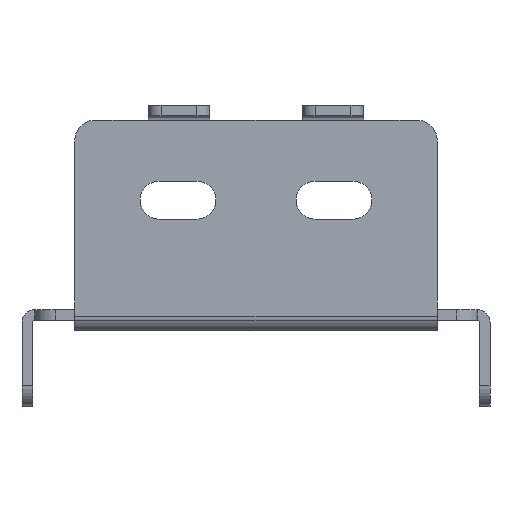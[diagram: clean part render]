
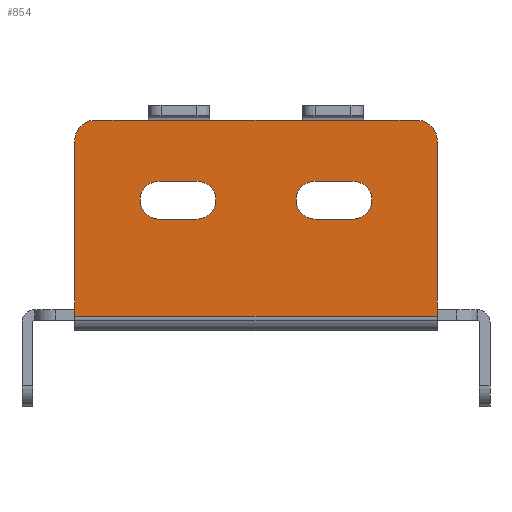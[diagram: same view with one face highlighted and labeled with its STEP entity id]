
A CAD part, front view. The second image highlights one B-rep face of the part: STEP entity #854.
In plain terms, the highlighted planar face has unit normal (0, -1, 0).
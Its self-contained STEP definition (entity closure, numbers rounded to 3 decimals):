
#26 = DIRECTION ( 'NONE',  ( 1., 0., 0. ) ) ;
#47 = AXIS2_PLACEMENT_3D ( 'NONE', #4131, #2044, #4484 ) ;
#91 = VERTEX_POINT ( 'NONE', #2545 ) ;
#125 = VECTOR ( 'NONE', #2453, 1000. ) ;
#145 = VERTEX_POINT ( 'NONE', #3322 ) ;
#158 = ORIENTED_EDGE ( 'NONE', *, *, #1124, .T. ) ;
#233 = CIRCLE ( 'NONE', #47, 4.5 ) ;
#298 = CARTESIAN_POINT ( 'NONE',  ( 23., -750., 28.5 ) ) ;
#327 = CARTESIAN_POINT ( 'NONE',  ( -38., -750., 47.5 ) ) ;
#352 = EDGE_CURVE ( 'NONE', #2851, #4167, #4058, .T. ) ;
#360 = LINE ( 'NONE', #1279, #472 ) ;
#363 = CARTESIAN_POINT ( 'NONE',  ( -23., -750., 28.5 ) ) ;
#365 = VERTEX_POINT ( 'NONE', #3160 ) ;
#414 = CARTESIAN_POINT ( 'NONE',  ( 43., -750., 47.5 ) ) ;
#415 = EDGE_CURVE ( 'NONE', #2531, #3771, #1164, .T. ) ;
#449 = CARTESIAN_POINT ( 'NONE',  ( -11., -750., 47.5 ) ) ;
#460 = DIRECTION ( 'NONE',  ( 0., -1., 0. ) ) ;
#472 = VECTOR ( 'NONE', #2655, 1000. ) ;
#490 = ORIENTED_EDGE ( 'NONE', *, *, #4356, .F. ) ;
#497 = EDGE_CURVE ( 'NONE', #4167, #2531, #727, .T. ) ;
#511 = LINE ( 'NONE', #2525, #2254 ) ;
#525 = VERTEX_POINT ( 'NONE', #449 ) ;
#533 = FACE_BOUND ( 'NONE', #922, .T. ) ;
#550 = CARTESIAN_POINT ( 'NONE',  ( 43., -750., 42.5 ) ) ;
#573 = ORIENTED_EDGE ( 'NONE', *, *, #497, .T. ) ;
#608 = CARTESIAN_POINT ( 'NONE',  ( 14., -750., 24. ) ) ;
#650 = DIRECTION ( 'NONE',  ( 0., 0., 1. ) ) ;
#663 = ORIENTED_EDGE ( 'NONE', *, *, #2762, .F. ) ;
#707 = DIRECTION ( 'NONE',  ( 0., 0., 1. ) ) ;
#727 = LINE ( 'NONE', #785, #4329 ) ;
#743 = VECTOR ( 'NONE', #3531, 1000. ) ;
#773 = ORIENTED_EDGE ( 'NONE', *, *, #4438, .F. ) ;
#784 = CARTESIAN_POINT ( 'NONE',  ( 43., -750., -2.5 ) ) ;
#785 = CARTESIAN_POINT ( 'NONE',  ( -43., -750., -2.5 ) ) ;
#794 = EDGE_CURVE ( 'NONE', #1062, #3771, #3526, .T. ) ;
#795 = ORIENTED_EDGE ( 'NONE', *, *, #2878, .F. ) ;
#797 = ORIENTED_EDGE ( 'NONE', *, *, #977, .T. ) ;
#854 = ADVANCED_FACE ( 'NONE', ( #533, #4126, #3205 ), #2499, .F. ) ;
#922 = EDGE_LOOP ( 'NONE', ( #1364, #3751, #2749, #663 ) ) ;
#932 = VECTOR ( 'NONE', #2493, 1000. ) ;
#972 = CARTESIAN_POINT ( 'NONE',  ( 43., -750., 47.5 ) ) ;
#977 = EDGE_CURVE ( 'NONE', #1062, #3425, #3586, .T. ) ;
#1018 = ORIENTED_EDGE ( 'NONE', *, *, #352, .T. ) ;
#1062 = VERTEX_POINT ( 'NONE', #550 ) ;
#1090 = CARTESIAN_POINT ( 'NONE',  ( 25.5, -750., 47.5 ) ) ;
#1091 = EDGE_LOOP ( 'NONE', ( #2113, #795, #773, #490 ) ) ;
#1124 = EDGE_CURVE ( 'NONE', #4306, #3963, #360, .T. ) ;
#1129 = CARTESIAN_POINT ( 'NONE',  ( 43., -750., 1. ) ) ;
#1164 = LINE ( 'NONE', #2806, #3833 ) ;
#1268 = CIRCLE ( 'NONE', #1357, 4.5 ) ;
#1279 = CARTESIAN_POINT ( 'NONE',  ( 43., -750., 47.5 ) ) ;
#1357 = AXIS2_PLACEMENT_3D ( 'NONE', #363, #2788, #707 ) ;
#1364 = ORIENTED_EDGE ( 'NONE', *, *, #2555, .F. ) ;
#1548 = CARTESIAN_POINT ( 'NONE',  ( 38., -750., 42.5 ) ) ;
#1586 = VECTOR ( 'NONE', #2366, 1000. ) ;
#1664 = DIRECTION ( 'NONE',  ( -1., 0., 0. ) ) ;
#1693 = LINE ( 'NONE', #3761, #1586 ) ;
#1696 = LINE ( 'NONE', #1899, #4156 ) ;
#1721 = EDGE_LOOP ( 'NONE', ( #2753, #2679, #2067, #1018, #573, #3926, #2704, #797, #4148, #158 ) ) ;
#1743 = CARTESIAN_POINT ( 'NONE',  ( -38., -750., 42.5 ) ) ;
#1775 = CARTESIAN_POINT ( 'NONE',  ( 43., -750., -2.5 ) ) ;
#1793 = AXIS2_PLACEMENT_3D ( 'NONE', #2543, #460, #2885 ) ;
#1828 = DIRECTION ( 'NONE',  ( 0., 1., 0. ) ) ;
#1897 = DIRECTION ( 'NONE',  ( 0., 0., 1. ) ) ;
#1899 = CARTESIAN_POINT ( 'NONE',  ( -23., -750., 33. ) ) ;
#1924 = CIRCLE ( 'NONE', #1793, 4.5 ) ;
#2044 = DIRECTION ( 'NONE',  ( 0., -1., 0. ) ) ;
#2066 = VERTEX_POINT ( 'NONE', #3174 ) ;
#2067 = ORIENTED_EDGE ( 'NONE', *, *, #3372, .T. ) ;
#2070 = CARTESIAN_POINT ( 'NONE',  ( -43., -750., 1. ) ) ;
#2083 = DIRECTION ( 'NONE',  ( 1., 0., 0. ) ) ;
#2084 = LINE ( 'NONE', #2991, #3826 ) ;
#2109 = DIRECTION ( 'NONE',  ( 0., 0., 1. ) ) ;
#2108 = CARTESIAN_POINT ( 'NONE',  ( 43., -750., 47.5 ) ) ;
#2113 = ORIENTED_EDGE ( 'NONE', *, *, #2734, .F. ) ;
#2186 = DIRECTION ( 'NONE',  ( 0., 0., -1. ) ) ;
#2207 = AXIS2_PLACEMENT_3D ( 'NONE', #1548, #3989, #1897 ) ;
#2254 = VECTOR ( 'NONE', #2866, 1000. ) ;
#2366 = DIRECTION ( 'NONE',  ( 1., 0., 0. ) ) ;
#2453 = DIRECTION ( 'NONE',  ( -1., 0., 0. ) ) ;
#2471 = EDGE_CURVE ( 'NONE', #91, #3106, #233, .T. ) ;
#2493 = DIRECTION ( 'NONE',  ( -1., 0., 0. ) ) ;
#2499 = PLANE ( 'NONE',  #3702 ) ;
#2525 = CARTESIAN_POINT ( 'NONE',  ( 14., -750., 33. ) ) ;
#2531 = VERTEX_POINT ( 'NONE', #2070 ) ;
#2543 = CARTESIAN_POINT ( 'NONE',  ( -14., -750., 28.5 ) ) ;
#2545 = CARTESIAN_POINT ( 'NONE',  ( 14., -750., 33. ) ) ;
#2555 = EDGE_CURVE ( 'NONE', #3106, #4375, #4436, .T. ) ;
#2601 = DIRECTION ( 'NONE',  ( -1., 0., 0. ) ) ;
#2617 = EDGE_CURVE ( 'NONE', #2653, #91, #511, .T. ) ;
#2653 = VERTEX_POINT ( 'NONE', #4419 ) ;
#2655 = DIRECTION ( 'NONE',  ( -1., 0., 0. ) ) ;
#2679 = ORIENTED_EDGE ( 'NONE', *, *, #4505, .T. ) ;
#2690 = CARTESIAN_POINT ( 'NONE',  ( -23., -750., 33. ) ) ;
#2704 = ORIENTED_EDGE ( 'NONE', *, *, #794, .F. ) ;
#2722 = EDGE_CURVE ( 'NONE', #3425, #4306, #2836, .T. ) ;
#2724 = DIRECTION ( 'NONE',  ( 0., -1., 0. ) ) ;
#2734 = EDGE_CURVE ( 'NONE', #4117, #2066, #1693, .T. ) ;
#2749 = ORIENTED_EDGE ( 'NONE', *, *, #2617, .F. ) ;
#2753 = ORIENTED_EDGE ( 'NONE', *, *, #2919, .T. ) ;
#2754 = CARTESIAN_POINT ( 'NONE',  ( -43., -750., 42.5 ) ) ;
#2762 = EDGE_CURVE ( 'NONE', #4375, #2653, #4262, .T. ) ;
#2788 = DIRECTION ( 'NONE',  ( 0., -1., 0. ) ) ;
#2806 = CARTESIAN_POINT ( 'NONE',  ( 43., -750., 1. ) ) ;
#2836 = LINE ( 'NONE', #972, #3454 ) ;
#2851 = VERTEX_POINT ( 'NONE', #327 ) ;
#2866 = DIRECTION ( 'NONE',  ( -1., 0., 0. ) ) ;
#2878 = EDGE_CURVE ( 'NONE', #3122, #4117, #1268, .T. ) ;
#2885 = DIRECTION ( 'NONE',  ( 0., 0., 1. ) ) ;
#2893 = LINE ( 'NONE', #2108, #125 ) ;
#2919 = EDGE_CURVE ( 'NONE', #3963, #525, #2893, .T. ) ;
#2979 = CARTESIAN_POINT ( 'NONE',  ( 11., -750., 47.5 ) ) ;
#2991 = CARTESIAN_POINT ( 'NONE',  ( -25.5, -750., 47.5 ) ) ;
#3075 = CARTESIAN_POINT ( 'NONE',  ( -23., -750., 24. ) ) ;
#3106 = VERTEX_POINT ( 'NONE', #608 ) ;
#3122 = VERTEX_POINT ( 'NONE', #2690 ) ;
#3160 = CARTESIAN_POINT ( 'NONE',  ( -14., -750., 33. ) ) ;
#3174 = CARTESIAN_POINT ( 'NONE',  ( -14., -750., 24. ) ) ;
#3205 = FACE_OUTER_BOUND ( 'NONE', #1721, .T. ) ;
#3322 = CARTESIAN_POINT ( 'NONE',  ( -25.5, -750., 47.5 ) ) ;
#3347 = DIRECTION ( 'NONE',  ( -1., 0., 0. ) ) ;
#3372 = EDGE_CURVE ( 'NONE', #145, #2851, #3818, .T. ) ;
#3425 = VERTEX_POINT ( 'NONE', #3589 ) ;
#3454 = VECTOR ( 'NONE', #1664, 1000. ) ;
#3526 = LINE ( 'NONE', #1775, #743 ) ;
#3531 = DIRECTION ( 'NONE',  ( 0., 0., -1. ) ) ;
#3586 = CIRCLE ( 'NONE', #2207, 5. ) ;
#3589 = CARTESIAN_POINT ( 'NONE',  ( 38., -750., 47.5 ) ) ;
#3627 = VECTOR ( 'NONE', #2083, 1000. ) ;
#3702 = AXIS2_PLACEMENT_3D ( 'NONE', #784, #1828, #4269 ) ;
#3751 = ORIENTED_EDGE ( 'NONE', *, *, #2471, .F. ) ;
#3761 = CARTESIAN_POINT ( 'NONE',  ( -23., -750., 24. ) ) ;
#3771 = VERTEX_POINT ( 'NONE', #1129 ) ;
#3789 = AXIS2_PLACEMENT_3D ( 'NONE', #298, #2724, #650 ) ;
#3818 = LINE ( 'NONE', #414, #932 ) ;
#3826 = VECTOR ( 'NONE', #3347, 1000. ) ;
#3833 = VECTOR ( 'NONE', #26, 1000. ) ;
#3861 = AXIS2_PLACEMENT_3D ( 'NONE', #1743, #4192, #2109 ) ;
#3926 = ORIENTED_EDGE ( 'NONE', *, *, #415, .T. ) ;
#3949 = CARTESIAN_POINT ( 'NONE',  ( 23., -750., 24. ) ) ;
#3963 = VERTEX_POINT ( 'NONE', #2979 ) ;
#3989 = DIRECTION ( 'NONE',  ( 0., -1., 0. ) ) ;
#4058 = CIRCLE ( 'NONE', #3861, 5. ) ;
#4117 = VERTEX_POINT ( 'NONE', #3075 ) ;
#4126 = FACE_BOUND ( 'NONE', #1091, .T. ) ;
#4131 = CARTESIAN_POINT ( 'NONE',  ( 14., -750., 28.5 ) ) ;
#4148 = ORIENTED_EDGE ( 'NONE', *, *, #2722, .T. ) ;
#4156 = VECTOR ( 'NONE', #2601, 1000. ) ;
#4167 = VERTEX_POINT ( 'NONE', #2754 ) ;
#4192 = DIRECTION ( 'NONE',  ( 0., -1., 0. ) ) ;
#4262 = CIRCLE ( 'NONE', #3789, 4.5 ) ;
#4269 = DIRECTION ( 'NONE',  ( 0., 0., 1. ) ) ;
#4306 = VERTEX_POINT ( 'NONE', #1090 ) ;
#4329 = VECTOR ( 'NONE', #2186, 1000. ) ;
#4356 = EDGE_CURVE ( 'NONE', #2066, #365, #1924, .T. ) ;
#4375 = VERTEX_POINT ( 'NONE', #3949 ) ;
#4419 = CARTESIAN_POINT ( 'NONE',  ( 23., -750., 33. ) ) ;
#4436 = LINE ( 'NONE', #4531, #3627 ) ;
#4438 = EDGE_CURVE ( 'NONE', #365, #3122, #1696, .T. ) ;
#4484 = DIRECTION ( 'NONE',  ( 0., 0., 1. ) ) ;
#4505 = EDGE_CURVE ( 'NONE', #525, #145, #2084, .T. ) ;
#4531 = CARTESIAN_POINT ( 'NONE',  ( 14., -750., 24. ) ) ;
